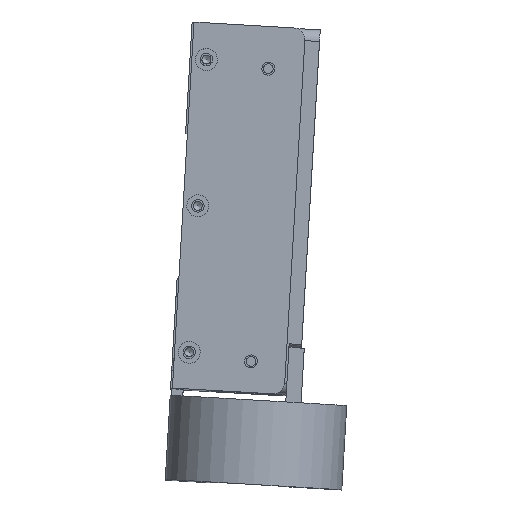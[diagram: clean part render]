
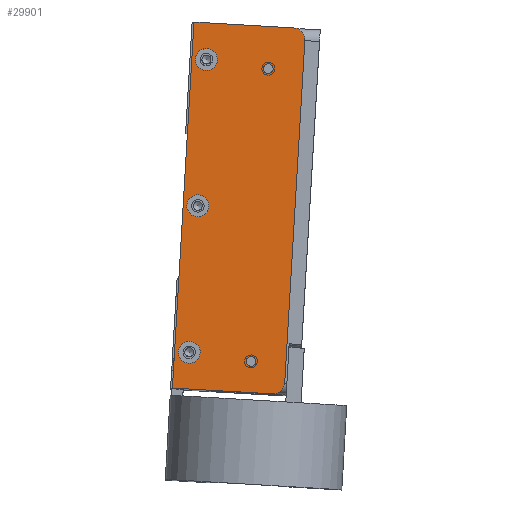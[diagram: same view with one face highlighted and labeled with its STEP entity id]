
A CAD part, top view. The second image highlights one B-rep face of the part: STEP entity #29901.
In plain terms, the highlighted planar face has unit normal (0, 0, 1) as drawn and (0, -1, 0) by its records, which use the part's own axes.
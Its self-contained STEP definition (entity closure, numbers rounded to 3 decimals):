
#866=PLANE($,#32459);
#1813=FACE_BOUND($,#4974,.T.);
#1814=FACE_BOUND($,#4975,.T.);
#1815=FACE_BOUND($,#4976,.T.);
#1816=FACE_BOUND($,#4977,.T.);
#1817=FACE_BOUND($,#4978,.T.);
#1818=FACE_BOUND($,#4979,.T.);
#4974=EDGE_LOOP($,(#23909));
#4975=EDGE_LOOP($,(#23910));
#4976=EDGE_LOOP($,(#23911));
#4977=EDGE_LOOP($,(#23912));
#4978=EDGE_LOOP($,(#23913));
#4979=EDGE_LOOP($,(#23914,#23915,#23916,#23917,#23918,#23919));
#7285=LINE($,#47609,#10021);
#7288=LINE($,#47625,#10024);
#7289=LINE($,#47627,#10025);
#7290=LINE($,#47629,#10026);
#10021=VECTOR($,#38134,93.65);
#10024=VECTOR($,#38149,27.325);
#10025=VECTOR($,#38150,100.);
#10026=VECTOR($,#38151,27.325);
#12569=CIRCLE($,#32456,3.175);
#12571=CIRCLE($,#32460,3.);
#12572=CIRCLE($,#32461,3.);
#12573=CIRCLE($,#32462,3.);
#12574=CIRCLE($,#32463,1.321);
#12575=CIRCLE($,#32464,1.321);
#12576=CIRCLE($,#32465,3.175);
#14330=VERTEX_POINT($,#47599);
#14331=VERTEX_POINT($,#47600);
#14334=VERTEX_POINT($,#47608);
#14336=VERTEX_POINT($,#47614);
#14337=VERTEX_POINT($,#47616);
#14338=VERTEX_POINT($,#47618);
#14339=VERTEX_POINT($,#47620);
#14340=VERTEX_POINT($,#47622);
#14341=VERTEX_POINT($,#47624);
#14342=VERTEX_POINT($,#47626);
#14343=VERTEX_POINT($,#47628);
#17830=EDGE_CURVE($,#14330,#14331,#12569,.T.);
#17834=EDGE_CURVE($,#14331,#14334,#7285,.T.);
#17837=EDGE_CURVE($,#14336,#14336,#12571,.T.);
#17838=EDGE_CURVE($,#14337,#14337,#12572,.T.);
#17839=EDGE_CURVE($,#14338,#14338,#12573,.T.);
#17840=EDGE_CURVE($,#14339,#14339,#12574,.T.);
#17841=EDGE_CURVE($,#14340,#14340,#12575,.T.);
#17842=EDGE_CURVE($,#14330,#14341,#7288,.T.);
#17843=EDGE_CURVE($,#14341,#14342,#7289,.T.);
#17844=EDGE_CURVE($,#14342,#14343,#7290,.T.);
#17845=EDGE_CURVE($,#14334,#14343,#12576,.T.);
#23909=ORIENTED_EDGE($,*,*,#17837,.T.);
#23910=ORIENTED_EDGE($,*,*,#17838,.T.);
#23911=ORIENTED_EDGE($,*,*,#17839,.T.);
#23912=ORIENTED_EDGE($,*,*,#17840,.T.);
#23913=ORIENTED_EDGE($,*,*,#17841,.T.);
#23914=ORIENTED_EDGE($,*,*,#17830,.F.);
#23915=ORIENTED_EDGE($,*,*,#17842,.T.);
#23916=ORIENTED_EDGE($,*,*,#17843,.T.);
#23917=ORIENTED_EDGE($,*,*,#17844,.T.);
#23918=ORIENTED_EDGE($,*,*,#17845,.F.);
#23919=ORIENTED_EDGE($,*,*,#17834,.F.);
#29901=ADVANCED_FACE($,(#1813,#1814,#1815,#1816,#1817,#1818),#866,.T.);
#32456=AXIS2_PLACEMENT_3D($,#47601,#38126,#38127);
#32459=AXIS2_PLACEMENT_3D($,#47613,#38137,#38138);
#32460=AXIS2_PLACEMENT_3D($,#47615,#38139,#38140);
#32461=AXIS2_PLACEMENT_3D($,#47617,#38141,#38142);
#32462=AXIS2_PLACEMENT_3D($,#47619,#38143,#38144);
#32463=AXIS2_PLACEMENT_3D($,#47621,#38145,#38146);
#32464=AXIS2_PLACEMENT_3D($,#47623,#38147,#38148);
#32465=AXIS2_PLACEMENT_3D($,#47630,#38152,#38153);
#38126=DIRECTION('center_axis',(0.,1.,0.));
#38127=DIRECTION('ref_axis',(0.707,0.,0.707));
#38134=DIRECTION($,(0.,0.,-1.));
#38137=DIRECTION('center_axis',(0.,-1.,0.));
#38138=DIRECTION('ref_axis',(0.,0.,-1.));
#38139=DIRECTION('center_axis',(0.,1.,0.));
#38140=DIRECTION('ref_axis',(1.,0.,0.));
#38141=DIRECTION('center_axis',(0.,1.,0.));
#38142=DIRECTION('ref_axis',(1.,0.,0.));
#38143=DIRECTION('center_axis',(0.,1.,0.));
#38144=DIRECTION('ref_axis',(1.,0.,0.));
#38145=DIRECTION('center_axis',(0.,1.,0.));
#38146=DIRECTION('ref_axis',(1.,0.,0.));
#38147=DIRECTION('center_axis',(0.,1.,0.));
#38148=DIRECTION('ref_axis',(1.,0.,0.));
#38149=DIRECTION($,(-1.,0.,0.));
#38150=DIRECTION($,(0.,0.,-1.));
#38151=DIRECTION($,(1.,0.,0.));
#38152=DIRECTION('center_axis',(0.,1.,0.));
#38153=DIRECTION('ref_axis',(0.707,0.,-0.707));
#47599=CARTESIAN_POINT('',(12.075,-2.5,50.));
#47600=CARTESIAN_POINT('',(15.25,-2.5,46.825));
#47601=CARTESIAN_POINT('Origin',(12.075,-2.5,46.825));
#47608=CARTESIAN_POINT('',(15.25,-2.5,-46.825));
#47609=CARTESIAN_POINT($,(15.25,-2.5,0.));
#47613=CARTESIAN_POINT('Origin',(15.25,-2.5,0.));
#47614=CARTESIAN_POINT('',(-8.25,-2.5,0.));
#47615=CARTESIAN_POINT('Origin',(-11.25,-2.5,0.));
#47616=CARTESIAN_POINT('',(-8.25,-2.5,40.));
#47617=CARTESIAN_POINT('Origin',(-11.25,-2.5,40.));
#47618=CARTESIAN_POINT('',(-8.25,-2.5,-40.));
#47619=CARTESIAN_POINT('Origin',(-11.25,-2.5,-40.));
#47620=CARTESIAN_POINT('',(7.071,-2.5,38.5));
#47621=CARTESIAN_POINT('Origin',(5.75,-2.5,38.5));
#47622=CARTESIAN_POINT('',(7.037,-2.5,-41.5));
#47623=CARTESIAN_POINT('Origin',(5.716,-2.5,-41.5));
#47624=CARTESIAN_POINT('',(-15.25,-2.5,50.));
#47625=CARTESIAN_POINT($,(15.25,-2.5,50.));
#47626=CARTESIAN_POINT('',(-15.25,-2.5,-50.));
#47627=CARTESIAN_POINT($,(-15.25,-2.5,0.));
#47628=CARTESIAN_POINT('',(12.075,-2.5,-50.));
#47629=CARTESIAN_POINT($,(15.25,-2.5,-50.));
#47630=CARTESIAN_POINT('Origin',(12.075,-2.5,-46.825));
